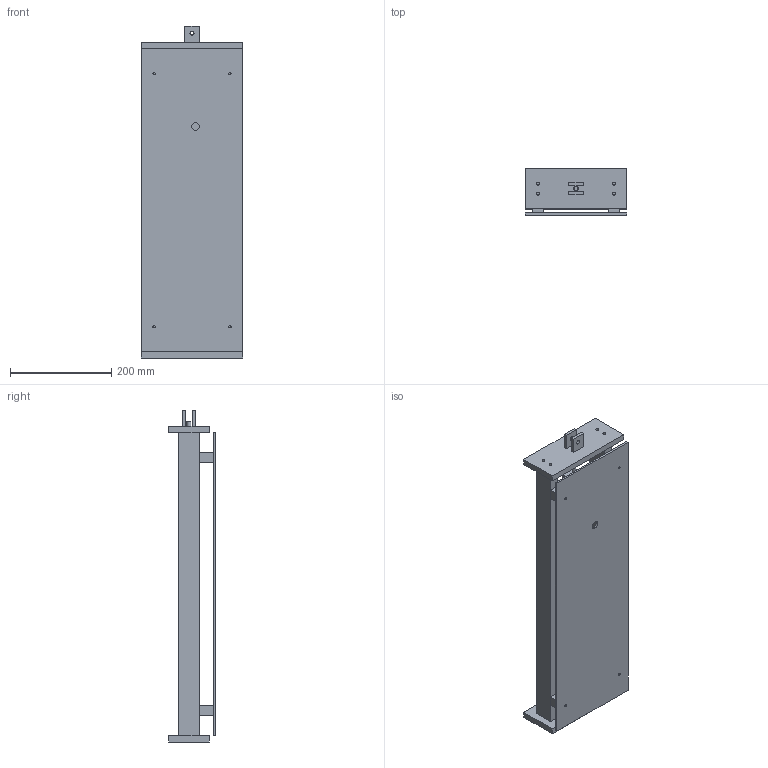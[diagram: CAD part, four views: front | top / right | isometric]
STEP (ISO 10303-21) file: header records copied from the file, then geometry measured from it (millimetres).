
FILE_DESCRIPTION(('Open CASCADE Model'),'2;1');
FILE_NAME('Open CASCADE Shape Model','2026-11-14T15:45:39',('Author'),( 'Open CASCADE'),'Open CASCADE STEP processor 7.9','Open CASCADE 7.9' ,'Unknown');
FILE_SCHEMA(('AUTOMOTIVE_DESIGN { 1 0 10303 214 1 1 1 1 }'));
Length unit declared in the file: millimetre
Products named in the file (29): Open CASCADE STEP translator 7.9 5; Open CASCADE STEP translator 7.9 5.1; Open CASCADE STEP translator 7.9 5.2; Open CASCADE STEP translator 7.9 5.3; Open CASCADE STEP translator 7.9 5.4; Open CASCADE STEP translator 7.9 5.5; Open CASCADE STEP translator 7.9 5.6; Open CASCADE STEP translator 7.9 5.7; Open CASCADE STEP translator 7.9 5.8; Open CASCADE STEP translator 7.9 5.9; Open CASCADE STEP translator 7.9 5.10; Open CASCADE STEP translator 7.9 5.11; Open CASCADE STEP translator 7.9 5.12; Open CASCADE STEP translator 7.9 5.13; Open CASCADE STEP translator 7.9 5.14; Open CASCADE STEP translator 7.9 5.15; Open CASCADE STEP translator 7.9 5.16; Open CASCADE STEP translator 7.9 5.17; Open CASCADE STEP translator 7.9 5.18; Open CASCADE STEP translator 7.9 5.19; Open CASCADE STEP translator 7.9 5.20; Open CASCADE STEP translator 7.9 5.21; Open CASCADE STEP translator 7.9 5.22; Open CASCADE STEP translator 7.9 5.23; Open CASCADE STEP translator 7.9 5.24; Open CASCADE STEP translator 7.9 5.25; Open CASCADE STEP translator 7.9 5.26; Open CASCADE STEP translator 7.9 5.27; Open CASCADE STEP translator 7.9 5.28
Assembly tree (28 placements, depth 2):
  Open CASCADE STEP translator 7.9 5
    Open CASCADE STEP translator 7.9 5.1
    Open CASCADE STEP translator 7.9 5.2
    Open CASCADE STEP translator 7.9 5.3
    Open CASCADE STEP translator 7.9 5.4
    Open CASCADE STEP translator 7.9 5.5
    Open CASCADE STEP translator 7.9 5.6
    Open CASCADE STEP translator 7.9 5.7
    Open CASCADE STEP translator 7.9 5.8
    Open CASCADE STEP translator 7.9 5.9
    Open CASCADE STEP translator 7.9 5.10
    Open CASCADE STEP translator 7.9 5.11
    Open CASCADE STEP translator 7.9 5.12
    Open CASCADE STEP translator 7.9 5.13
    Open CASCADE STEP translator 7.9 5.14
    Open CASCADE STEP translator 7.9 5.15
    Open CASCADE STEP translator 7.9 5.16
    Open CASCADE STEP translator 7.9 5.17
    Open CASCADE STEP translator 7.9 5.18
    Open CASCADE STEP translator 7.9 5.19
    Open CASCADE STEP translator 7.9 5.20
    Open CASCADE STEP translator 7.9 5.21
    Open CASCADE STEP translator 7.9 5.22
    Open CASCADE STEP translator 7.9 5.23
    Open CASCADE STEP translator 7.9 5.24
    Open CASCADE STEP translator 7.9 5.25
    Open CASCADE STEP translator 7.9 5.26
    Open CASCADE STEP translator 7.9 5.27
    Open CASCADE STEP translator 7.9 5.28
Bounding box: 200 x 92 x 656 mm (x, y, z)
Volume: 2134757.4 mm3; surface area: 584726.3 mm2
Topology: 28 solids, 28 shells, 257 faces, 528 edges, 348 vertices
Faces by surface type: plane 176, cylinder 75, cone 6
Full cylindrical faces by diameter (mm): 2 x4, 2.5 x1, 3 x1, 4.5 x8, 5 x2, 5.5 x8, 6.35 x3, 8 x27, 8.5 x2, 9.525 x2, 10.795 x1, 11 x1, 12 x4, 13 x2, 15 x3, 20 x2, 24 x4
Entity records: 17041 total; most frequent: CARTESIAN_POINT 5163, DIRECTION 2236, LINE 1214, VECTOR 1214, ORIENTED_EDGE 1056, PCURVE 1056, DEFINITIONAL_REPRESENTATION 1056, EDGE_CURVE 528
